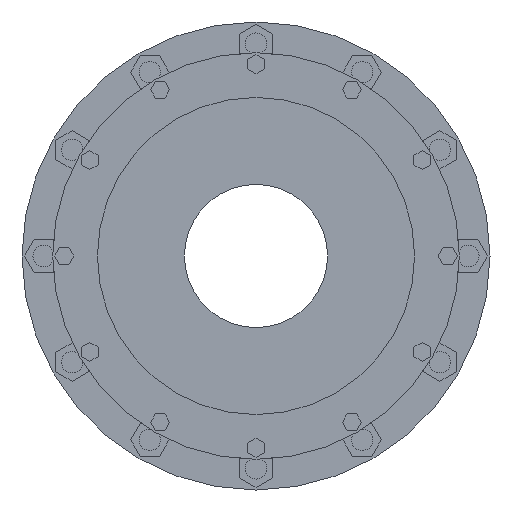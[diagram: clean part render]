
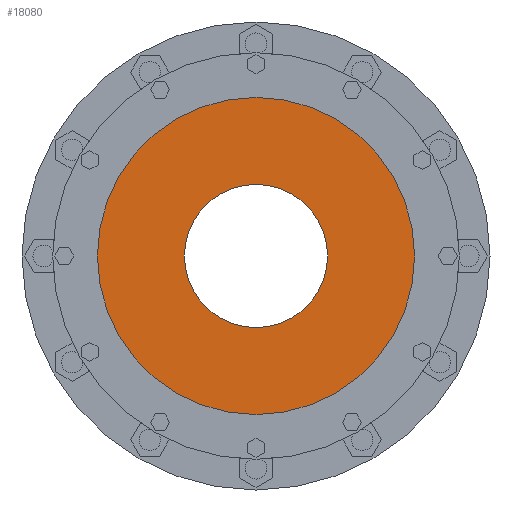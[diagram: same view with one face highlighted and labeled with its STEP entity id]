
A CAD part, left-side view. The second image highlights one B-rep face of the part: STEP entity #18080.
In plain terms, the highlighted planar face has unit normal (-1, 0, 0).
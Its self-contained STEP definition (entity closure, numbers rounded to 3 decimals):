
#17778=CARTESIAN_POINT('',(-859.5,0.,0.));
#17779=DIRECTION('',(1.,0.,0.));
#17780=DIRECTION('',(0.,1.,0.));
#17781=AXIS2_PLACEMENT_3D('',#17778,#17779,#17780);
#17857=CARTESIAN_POINT('',(-859.5,0.,0.));
#17858=DIRECTION('',(-1.,0.,0.));
#17859=DIRECTION('',(0.,1.,0.));
#17860=AXIS2_PLACEMENT_3D('',#17857,#17858,#17859);
#17862=CARTESIAN_POINT('',(-859.5,0.,0.));
#17863=DIRECTION('',(1.,0.,0.));
#17864=DIRECTION('',(0.,1.,0.));
#17865=AXIS2_PLACEMENT_3D('',#17862,#17863,#17864);
#17876=CARTESIAN_POINT('',(-859.5,0.,0.));
#17877=DIRECTION('',(-1.,0.,0.));
#17878=DIRECTION('',(0.,1.,0.));
#17879=AXIS2_PLACEMENT_3D('',#17876,#17877,#17878);
#17885=CARTESIAN_POINT('',(-859.5,140.,0.));
#17886=CARTESIAN_POINT('',(-859.5,-140.,0.));
#17887=VERTEX_POINT('',#17885);
#17888=VERTEX_POINT('',#17886);
#17889=CARTESIAN_POINT('',(-859.5,310.,0.));
#17890=CARTESIAN_POINT('',(-859.5,-310.,0.));
#17891=VERTEX_POINT('',#17889);
#17892=VERTEX_POINT('',#17890);
#18066=CARTESIAN_POINT('',(-859.5,0.,0.));
#18067=DIRECTION('',(1.,0.,0.));
#18068=DIRECTION('',(0.,-1.,0.));
#18069=AXIS2_PLACEMENT_3D('',#18066,#18067,#18068);
#18070=PLANE('',#18069);
#18071=ORIENTED_EDGE('',*,*,#18048,.F.);
#18072=ORIENTED_EDGE('',*,*,#18061,.T.);
#18073=EDGE_LOOP('',(#18071,#18072));
#18074=FACE_OUTER_BOUND('',#18073,.F.);
#18075=ORIENTED_EDGE('',*,*,#17926,.F.);
#18077=ORIENTED_EDGE('',*,*,#18076,.T.);
#18078=EDGE_LOOP('',(#18075,#18077));
#18079=FACE_BOUND('',#18078,.F.);
#18080=ADVANCED_FACE('',(#18074,#18079),#18070,.F.);
#17782=CIRCLE('',#17781,140.);
#17861=CIRCLE('',#17860,310.);
#17866=CIRCLE('',#17865,310.);
#17880=CIRCLE('',#17879,140.);
#17926=EDGE_CURVE('',#17887,#17888,#17782,.T.);
#18048=EDGE_CURVE('',#17891,#17892,#17861,.T.);
#18061=EDGE_CURVE('',#17891,#17892,#17866,.T.);
#18076=EDGE_CURVE('',#17887,#17888,#17880,.T.);
